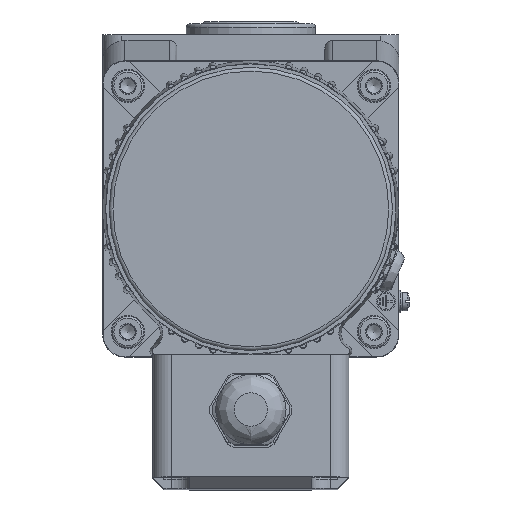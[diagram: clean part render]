
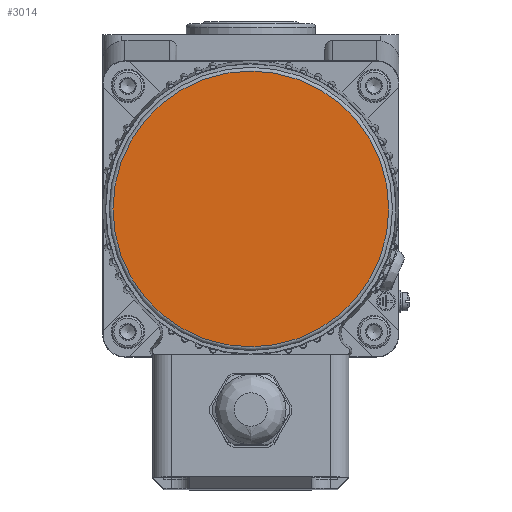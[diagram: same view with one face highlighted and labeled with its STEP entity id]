
A CAD part, left-side view. The second image highlights one B-rep face of the part: STEP entity #3014.
In plain terms, the highlighted planar face has unit normal (-1, 0, 0).
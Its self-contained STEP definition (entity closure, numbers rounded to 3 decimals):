
#3014=ADVANCED_FACE('',(#4501),#4044,.F.);
#4044=PLANE('',#16286);
#4501=FACE_OUTER_BOUND('',#5302,.T.);
#5302=EDGE_LOOP('',(#6657));
#6657=ORIENTED_EDGE('',*,*,#12575,.T.);
#11113=VERTEX_POINT('',#22710);
#12575=EDGE_CURVE('',#11113,#11113,#15468,.T.);
#15468=CIRCLE('',#16285,37.25);
#16285=AXIS2_PLACEMENT_3D('',#22709,#18026,#18027);
#16286=AXIS2_PLACEMENT_3D('',#22711,#18028,#18029);
#18026=DIRECTION('',(-1.,0.,0.));
#18027=DIRECTION('',(0.,0.,-1.));
#18028=DIRECTION('',(1.,0.,0.));
#18029=DIRECTION('',(0.,0.,-1.));
#22709=CARTESIAN_POINT('',(-86.,40.,40.));
#22710=CARTESIAN_POINT('',(-86.,40.,2.75));
#22711=CARTESIAN_POINT('',(-86.,40.,78.25));
